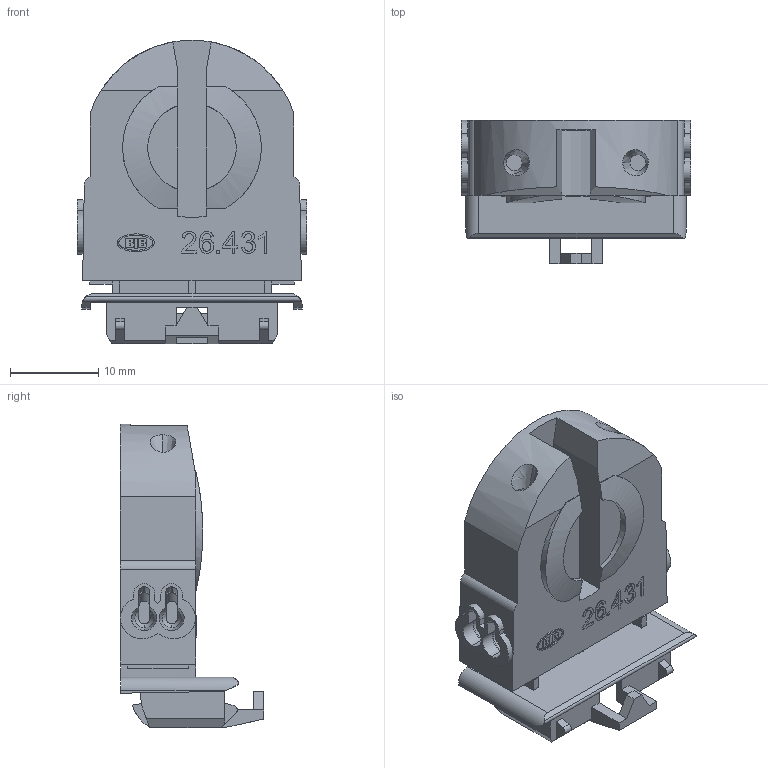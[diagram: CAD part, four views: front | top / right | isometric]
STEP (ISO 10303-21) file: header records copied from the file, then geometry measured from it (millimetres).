
FILE_DESCRIPTION(('CAx-IF Rec.Pracs.---Model Styling and Organization---1.2---2011-12-15','CAx-IF Rec.Pracs.---Geometric and Assembly Validation Properties---4.1---2014-06-16','CAx-IF Rec.Pracs.---PMI Polyline Presentation---2.0---2013-05-24'),'2;1');
FILE_NAME('00TYY08Y07.stp','2017-07-24T09:13:07+02:00',(''),(''),'STEP Interface 4.0 Sp1 by CT CoreTechnologie','3D_Evolution4.0 Sp1 by CT CoreTechnologie','');
FILE_SCHEMA(('AP203_CONFIGURATION_CONTROLLED_3D_DESIGN_OF_MECHANICAL_PARTS_AND_ASSEMBLIES_MIM_LF'));
Length unit declared in the file: metre
Products named in the file (3): 00T-Y08-07; 00T-Y02-06; Z05-309-09
Assembly tree (2 placements, depth 2):
  00T-Y08-07
    00T-Y02-06
    Z05-309-09
Bounding box: 26 x 16.23 x 34.33 mm (x, y, z)
Volume: 5534.2 mm3; surface area: 4901 mm2
Topology: 2 solids, 2 shells, 427 faces, 1172 edges, 772 vertices
Faces by surface type: plane 271, cylinder 118, bspline 38
Entity records: 17490 total; most frequent: CARTESIAN_POINT 3144, ORIENTED_EDGE 2328, DIRECTION 2186, EDGE_CURVE 1164, VECTOR 846, LINE 846, VERTEX_POINT 768, AXIS2_PLACEMENT_3D 670
